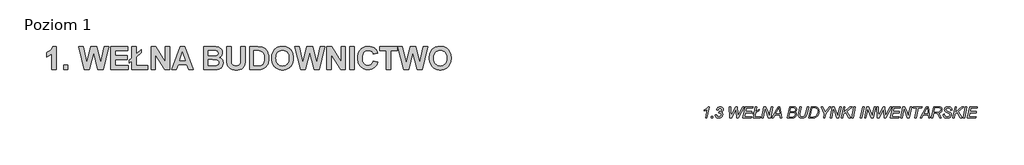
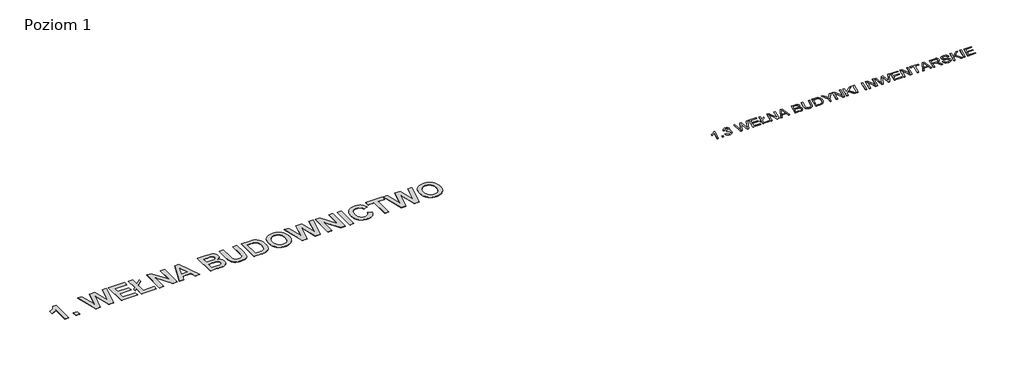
# One storey, incomplete: 2 proxies.
"""IFC4 building model written with IfcOpenShell, lengths in millimetres."""

from ifc_helpers import new_model, si_unit, origin, origin_with_axes, place, context, project, spatial, polyline, outline, extrude, element, save

model = new_model("IFC4")

# Units and contexts
model_context = context("Model", 3, world=origin())
ifc_project = project(units=[si_unit("LENGTHUNIT", "METRE", prefix="MILLI")], contexts=[model_context])

# Site, building, storey
site = spatial("IfcSite", under=ifc_project)
building = spatial("IfcBuilding", under=site)
storey = spatial("IfcBuildingStorey", under=building, Name="Poziom 1", Elevation=0.0)

# Proxies
placement = place(None, origin())
element("IfcBuildingElementProxy", 1, Name="400 mm Arial", ObjectType="400 mm Arial", at=placement, inside=storey, context=model_context, shape_type="SweptSolid", body=[
    extrude(outline(polyline([(7188.1068831, 15251.1796723), (7249.3190043, 15546.3368692), (7227.350787, 15531.4283702), (7201.3296577, 15518.0740851), (7137.1286634, 15496.0281571), (7146.1191937, 15538.8766419), (7181.8302496, 15555.5067319), (7217.0391748, 15576.5125321), (7269.9780952, 15617.0177404), (7290.7328301, 15642.937248), (7319.330368, 15642.937248), (7237.9373755, 15251.1796723), (7188.1068831, 15251.1796723)])), origin_with_axes(), (0.0, 0.0, 1.0), 5.0),
    extrude(outline(polyline([(7384.7508225, 15251.1796723), (7396.2280952, 15300.1493692), (7445.1977922, 15300.1493692), (7434.6769589, 15251.1796723), (7384.7508225, 15251.1796723)])), origin_with_axes(), (0.0, 0.0, 1.0), 5.0),
    extrude(outline(polyline([(7530.8947619, 15355.2402783), (7579.8644589, 15355.2402783), (7588.7593452, 15327.0850937), (7604.3493073, 15308.2312821), (7626.2517695, 15297.5789383), (7654.0841558, 15294.0281571), (7688.6594399, 15300.0059033), (7704.0461587, 15307.4780861), (7718.1655952, 15317.9391419), (7729.9656663, 15330.3310098), (7738.3942884, 15343.5956287), (7743.4514617, 15357.7329985), (7745.1371861, 15372.7431192), (7740.2832562, 15397.3594781), (7725.7214664, 15417.265373), (7702.9821198, 15430.4283702), (7673.5955195, 15434.8160359), (7658.1968452, 15434.8160359), (7666.422224, 15484.6465283), (7679.7167316, 15483.7857329), (7715.9538291, 15487.9462442), (7742.220046, 15500.4277783), (7758.1806284, 15518.9587916), (7763.5008225, 15541.2677404), (7758.9816464, 15561.7833654), (7745.424118, 15578.7601647), (7725.3149797, 15590.1657044), (7701.140974, 15593.967551), (7676.8713244, 15590.082016), (7655.1362392, 15578.4254109), (7638.3268168, 15559.6672433), (7628.8341558, 15534.4770207), (7579.8644589, 15542.4154677), (7587.1064984, 15565.0621592), (7597.0684125, 15584.9889762), (7609.7502011, 15602.1959187), (7625.1518642, 15616.6829866), (7642.6816049, 15628.169226), (7661.7476265, 15636.3736827), (7682.3499288, 15641.2963567), (7704.4885119, 15642.937248), (7727.4460462, 15641.1857684), (7748.1141038, 15635.9313294), (7766.4926845, 15627.1739312), (7782.5817884, 15614.9135738), (7795.6581082, 15600.1007187), (7804.9983367, 15583.6858276), (7810.6024738, 15565.6689005), (7812.4705195, 15546.0499374), (7808.5132515, 15518.1099516), (7796.6414475, 15493.9718124), (7776.7116416, 15473.6355198), (7748.580368, 15457.1010738), (7768.6177733, 15441.690444), (7782.8208983, 15423.3865851), (7791.2853869, 15402.213408), (7794.1068831, 15378.1948238), (7791.5753076, 15352.1198948), (7783.980581, 15327.8382897), (7771.3227034, 15305.3500084), (7753.6016748, 15284.655051), (7732.3597536, 15267.3315425), (7709.1391984, 15254.9576079), (7683.9400093, 15247.5332471), (7656.7621861, 15245.0584601), (7630.7231236, 15246.9354724), (7607.3142695, 15252.5665094), (7586.5356236, 15261.9515709), (7568.3871861, 15275.0906571), (7553.4189096, 15291.3620823), (7542.1807467, 15310.1441609), (7534.6726975, 15331.4368929), (7530.8947619, 15355.2402783)])), origin_with_axes(), (0.0, 0.0, 1.0), 5.0),
    extrude(outline(polyline([(8045.0765801, 15251.1796723), (8020.5917316, 15642.937248), (8069.5614286, 15642.937248), (8080.7517695, 15447.8236116), (8085.0557467, 15372.9344071), (8086.3947619, 15348.9277783), (8090.985671, 15318.5130056), (8136.4165422, 15418.0783465), (8251.1892695, 15642.937248), (8308.2887013, 15642.937248), (8325.6002543, 15413.2961495), (8335.8341558, 15318.5130056), (8351.328474, 15356.1010738), (8381.9345346, 15417.1219071), (8495.5595346, 15642.937248), (8550.0765801, 15642.937248), (8346.1637013, 15251.1796723), (8289.9250649, 15251.1796723), (8271.3701407, 15487.5158465), (8262.3796104, 15563.3614904), (8236.4601028, 15506.3577026), (8106.0017695, 15251.1796723), (8045.0765801, 15251.1796723)])), origin_with_axes(), (0.0, 0.0, 1.0), 5.0),
    extrude(outline(polyline([(8504.1674892, 15251.1796723), (8583.7432467, 15642.937248), (8859.1977922, 15642.937248), (8852.9809361, 15600.0887632), (8624.7744967, 15600.0887632), (8599.9070725, 15477.6645207), (8822.4705195, 15477.6645207), (8810.2280952, 15434.8160359), (8591.203474, 15434.8160359), (8562.6059361, 15294.0281571), (8808.1239286, 15294.0281571), (8798.9421104, 15251.1796723), (8504.1674892, 15251.1796723)])), origin_with_axes(), (0.0, 0.0, 1.0), 5.0),
    extrude(outline(polyline([(8898.3161634, 15413.7743692), (8846.955368, 15385.8463389), (8859.1977922, 15428.6948238), (8906.6371861, 15454.5186874), (8944.8947619, 15642.937248), (8994.6296104, 15642.937248), (8962.4932467, 15484.7421723), (9073.4402164, 15544.9978541), (9061.1977922, 15502.1493692), (8954.267868, 15444.093498), (8923.7574513, 15294.0281571), (9128.5311255, 15294.0281571), (9116.2887013, 15251.1796723), (8865.3190043, 15251.1796723), (8898.3161634, 15413.7743692)])), origin_with_axes(), (0.0, 0.0, 1.0), 5.0),
    extrude(outline(polyline([(9165.2583983, 15251.1796723), (9244.8341558, 15642.937248), (9312.1674892, 15642.937248), (9371.4667316, 15491.3416041), (9414.5065043, 15374.5603541), (9435.6438149, 15300.1493692), (9457.2593452, 15411.2876268), (9502.3076407, 15642.937248), (9551.9468452, 15642.937248), (9475.8142695, 15251.1796723), (9403.5074513, 15251.1796723), (9322.4970346, 15476.2298616), (9282.9960877, 15585.7421723), (9263.3890801, 15489.0461495), (9214.9932467, 15251.1796723), (9165.2583983, 15251.1796723)])), origin_with_axes(), (0.0, 0.0, 1.0), 5.0),
    extrude(outline(polyline([(9524.2101028, 15251.1796723), (9743.4260119, 15642.937248), (9805.4032846, 15642.937248), (9867.0936255, 15251.1796723), (9817.6457089, 15251.1796723), (9801.9601028, 15361.3614904), (9638.8871861, 15361.3614904), (9579.109724, 15251.1796723), (9524.2101028, 15251.1796723)]), holes=[polyline([(9664.2328301, 15404.2099753), (9795.9345346, 15404.2099753), (9782.1618073, 15502.1493692), (9768.1977922, 15600.0887632), (9725.0623755, 15520.5130056), (9664.2328301, 15404.2099753)])]), origin_with_axes(), (0.0, 0.0, 1.0), 5.0),
    extrude(outline(polyline([(10071.1977922, 15251.1796723), (10151.1561255, 15642.937248), (10268.6068831, 15642.937248), (10316.2375649, 15642.937248), (10339.6105526, 15636.7203919), (10359.0382278, 15627.0603541), (10374.5205905, 15613.6223806), (10386.0576407, 15596.0717177), (10393.2309361, 15575.4126268), (10395.6220346, 15552.6493692), (10391.6289002, 15522.3302404), (10379.6494967, 15495.8368692), (10359.4208036, 15474.1974279), (10330.6797998, 15458.4400889), (10356.5036634, 15445.2292698), (10374.8672998, 15426.6384791), (10385.8424418, 15403.5524232), (10389.5008225, 15376.8558086), (10384.9696909, 15344.8031334), (10371.376296, 15314.0655624), (10350.2987628, 15287.4048143), (10323.3152164, 15267.5826079), (10291.6570725, 15255.2804062), (10256.5557467, 15251.1796723), (10071.1977922, 15251.1796723)]), holes=[polyline([(10167.3199513, 15477.6645207), (10246.9913528, 15477.6645207), (10295.1958983, 15482.1956524), (10312.5552733, 15487.8595669), (10325.4193831, 15495.7890473), (10334.7088007, 15505.8884495), (10341.344099, 15518.0621296), (10346.6523377, 15548.6323238), (10344.7872808, 15564.0429535), (10339.1921104, 15577.1820397), (10330.4885119, 15587.5474516), (10319.298171, 15594.6370586), (10301.3649323, 15598.725837), (10272.4326407, 15600.0887632), (10192.2830195, 15600.0887632), (10167.3199513, 15477.6645207)]), polyline([(10129.827527, 15294.0281571), (10219.1589664, 15294.0281571), (10266.9809361, 15296.5148995), (10289.5050839, 15302.5524232), (10307.3426786, 15311.6744639), (10321.1751833, 15324.0483986), (10331.6840611, 15339.8416041), (10338.3193594, 15357.7509317), (10340.5311255, 15376.4732329), (10336.2510592, 15401.6395444), (10323.4108604, 15419.9434033), (10312.8960048, 15426.4501801), (10298.4717032, 15431.0978777), (10257.8947619, 15434.8160359), (10158.5207089, 15434.8160359), (10129.827527, 15294.0281571)])]), origin_with_axes(), (0.0, 0.0, 1.0), 5.0),
    extrude(outline(polyline([(10512.3076407, 15642.937248), (10561.9468452, 15642.937248), (10512.4032846, 15401.7232329), (10506.3777164, 15357.248801), (10507.9528526, 15342.3761685), (10512.6782609, 15329.0338389), (10520.5539416, 15317.2218124), (10531.5798945, 15306.9400889), (10560.0220109, 15292.665231), (10594.9440043, 15287.906945), (10624.2110498, 15291.3262158), (10651.3739286, 15301.5840283), (10674.7588717, 15318.4771391), (10692.6921104, 15341.8023048), (10707.1343452, 15376.2460785), (10720.046277, 15426.4950132), (10769.3985498, 15642.937248), (10819.4203301, 15642.937248), (10767.0074513, 15412.8179298), (10753.186902, 15360.4648285), (10735.6362392, 15320.2824185), (10712.4664948, 15289.5687584), (10681.7887013, 15265.6219071), (10644.5592979, 15250.1993219), (10601.734724, 15245.0584601), (10559.3644589, 15248.6929298), (10523.1154058, 15259.5963389), (10494.0874702, 15276.8959365), (10473.3805573, 15299.7189715), (10460.9707562, 15327.0372717), (10456.8341558, 15357.8226647), (10467.7375649, 15428.7904677), (10512.3076407, 15642.937248)])), origin_with_axes(), (0.0, 0.0, 1.0), 5.0),
    extrude(outline(polyline([(10824.1068831, 15251.1796723), (10903.6826407, 15642.937248), (11020.9421104, 15642.937248), (11058.2193358, 15641.406945), (11085.5017695, 15636.8160359), (11115.0198803, 15625.2670302), (11139.875349, 15607.2620586), (11159.6258225, 15583.3869402), (11173.8289475, 15554.2274942), (11182.4010356, 15520.4771391), (11185.2583983, 15482.8292935), (11181.7195725, 15437.6733986), (11171.1030952, 15396.701926), (11154.7838481, 15360.1539857), (11134.1367127, 15328.2686874), (11110.7876359, 15301.9307376), (11086.3625649, 15282.0248427), (11059.1040422, 15267.4989194), (11027.2546104, 15257.3008844), (10998.3701407, 15252.7099753), (10963.5557467, 15251.1796723), (10824.1068831, 15251.1796723)]), holes=[polyline([(10882.5453301, 15294.0281571), (10945.3833983, 15294.0281571), (10985.5060308, 15295.5584601), (11020.9421104, 15300.1493692), (11040.0230763, 15306.1988484), (11056.1390801, 15314.5916041), (11074.4788055, 15328.7469071), (11091.049118, 15346.9192556), (11109.5562202, 15375.385283), (11123.9506331, 15407.6053351), (11133.2041842, 15444.0337205), (11136.2887013, 15485.124748), (11132.0445015, 15527.9134554), (11119.311902, 15559.4879109), (11100.0037818, 15581.0675747), (11076.0330195, 15593.8719071), (11051.2134172, 15598.5345491), (11015.5860498, 15600.0887632), (10944.7138907, 15600.0887632), (10882.5453301, 15294.0281571)])]), origin_with_axes(), (0.0, 0.0, 1.0), 5.0),
    extrude(outline(polyline([(11344.4099134, 15251.1796723), (11374.8246861, 15401.1493692), (11256.5131331, 15642.937248), (11310.0737392, 15642.937248), (11367.4601028, 15529.8861116), (11404.1873755, 15450.6929298), (11427.3092979, 15486.702873), (11460.1390801, 15525.4864904), (11548.0358604, 15642.937248), (11607.2394589, 15642.937248), (11423.6987392, 15397.2279677), (11394.1447619, 15251.1796723), (11344.4099134, 15251.1796723)])), origin_with_axes(), (0.0, 0.0, 1.0), 5.0),
    extrude(outline(polyline([(11577.015974, 15251.1796723), (11656.5917316, 15642.937248), (11723.9250649, 15642.937248), (11783.2243073, 15491.3416041), (11826.2640801, 15374.5603541), (11847.4013907, 15300.1493692), (11869.016921, 15411.2876268), (11914.0652164, 15642.937248), (11963.704421, 15642.937248), (11887.5718452, 15251.1796723), (11815.265027, 15251.1796723), (11734.2546104, 15476.2298616), (11694.7536634, 15585.7421723), (11675.1466558, 15489.0461495), (11626.7508225, 15251.1796723), (11577.015974, 15251.1796723)])), origin_with_axes(), (0.0, 0.0, 1.0), 5.0),
    extrude(outline(polyline([(11968.7735498, 15251.1796723), (12047.9667316, 15642.937248), (12097.7015801, 15642.937248), (12059.2527164, 15452.5101647), (12276.3644589, 15642.937248), (12348.2887013, 15642.937248), (12165.4174892, 15481.0120586), (12295.015027, 15251.1796723), (12239.6371861, 15251.1796723), (12127.829421, 15449.6408465), (12043.7583983, 15375.8993692), (12018.6040422, 15251.1796723), (11968.7735498, 15251.1796723)])), origin_with_axes(), (0.0, 0.0, 1.0), 5.0),
    extrude(outline(polyline([(12336.046277, 15251.1796723), (12415.6220346, 15642.937248), (12465.3568831, 15642.937248), (12385.7811255, 15251.1796723), (12336.046277, 15251.1796723)])), origin_with_axes(), (0.0, 0.0, 1.0), 5.0),
    extrude(outline(polyline([(12642.1068831, 15251.1796723), (12721.6826407, 15642.937248), (12771.4174892, 15642.937248), (12691.8417316, 15251.1796723), (12642.1068831, 15251.1796723)])), origin_with_axes(), (0.0, 0.0, 1.0), 5.0),
    extrude(outline(polyline([(12789.015974, 15251.1796723), (12868.5917316, 15642.937248), (12935.9250649, 15642.937248), (12995.2243073, 15491.3416041), (13038.2640801, 15374.5603541), (13059.4013907, 15300.1493692), (13081.016921, 15411.2876268), (13126.0652164, 15642.937248), (13175.704421, 15642.937248), (13099.5718452, 15251.1796723), (13027.265027, 15251.1796723), (12946.2546104, 15476.2298616), (12906.7536634, 15585.7421723), (12887.1466558, 15489.0461495), (12838.7508225, 15251.1796723), (12789.015974, 15251.1796723)])), origin_with_axes(), (0.0, 0.0, 1.0), 5.0),
    extrude(outline(polyline([(13241.985671, 15251.1796723), (13217.5008225, 15642.937248), (13266.4705195, 15642.937248), (13277.6608604, 15447.8236116), (13281.9648377, 15372.9344071), (13283.3038528, 15348.9277783), (13287.8947619, 15318.5130056), (13333.3256331, 15418.0783465), (13448.0983604, 15642.937248), (13505.1977922, 15642.937248), (13522.5093452, 15413.2961495), (13532.7432467, 15318.5130056), (13548.2375649, 15356.1010738), (13578.8436255, 15417.1219071), (13692.4686255, 15642.937248), (13746.985671, 15642.937248), (13543.0727922, 15251.1796723), (13486.8341558, 15251.1796723), (13468.2792316, 15487.5158465), (13459.2887013, 15563.3614904), (13433.3691937, 15506.3577026), (13302.9108604, 15251.1796723), (13241.985671, 15251.1796723)])), origin_with_axes(), (0.0, 0.0, 1.0), 5.0),
    extrude(outline(polyline([(13701.0765801, 15251.1796723), (13780.6523377, 15642.937248), (14056.1068831, 15642.937248), (14049.890027, 15600.0887632), (13821.6835877, 15600.0887632), (13796.8161634, 15477.6645207), (14019.3796104, 15477.6645207), (14007.1371861, 15434.8160359), (13788.1125649, 15434.8160359), (13759.515027, 15294.0281571), (14005.0330195, 15294.0281571), (13995.8512013, 15251.1796723), (13701.0765801, 15251.1796723)])), origin_with_axes(), (0.0, 0.0, 1.0), 5.0),
    extrude(outline(polyline([(14062.2280952, 15251.1796723), (14141.8038528, 15642.937248), (14209.1371861, 15642.937248), (14268.4364286, 15491.3416041), (14311.4762013, 15374.5603541), (14332.6135119, 15300.1493692), (14354.2290422, 15411.2876268), (14399.2773377, 15642.937248), (14448.9165422, 15642.937248), (14372.7839664, 15251.1796723), (14300.4771483, 15251.1796723), (14219.4667316, 15476.2298616), (14179.9657846, 15585.7421723), (14160.358777, 15489.0461495), (14111.9629437, 15251.1796723), (14062.2280952, 15251.1796723)])), origin_with_axes(), (0.0, 0.0, 1.0), 5.0),
    extrude(outline(polyline([(14558.046277, 15251.1796723), (14632.1703301, 15600.0887632), (14496.8341558, 15600.0887632), (14506.111618, 15642.937248), (14818.1977922, 15642.937248), (14808.9203301, 15600.0887632), (14682.0008225, 15600.0887632), (14607.8767695, 15251.1796723), (14558.046277, 15251.1796723)])), origin_with_axes(), (0.0, 0.0, 1.0), 5.0),
    extrude(outline(polyline([(14751.7252543, 15251.1796723), (14970.9411634, 15642.937248), (15032.9184361, 15642.937248), (15094.608777, 15251.1796723), (15045.1608604, 15251.1796723), (15029.4752543, 15361.3614904), (14866.4023377, 15361.3614904), (14806.6248755, 15251.1796723), (14751.7252543, 15251.1796723)]), holes=[polyline([(14891.7479816, 15404.2099753), (15023.4496861, 15404.2099753), (15009.6769589, 15502.1493692), (14995.7129437, 15600.0887632), (14952.577527, 15520.5130056), (14891.7479816, 15404.2099753)])]), origin_with_axes(), (0.0, 0.0, 1.0), 5.0),
    extrude(outline(polyline([(15145.6826407, 15251.1796723), (15225.2583983, 15642.937248), (15390.7224134, 15642.937248), (15433.7741416, 15640.8569923), (15464.9899323, 15634.6162253), (15487.561902, 15622.6368219), (15504.6821672, 15603.3406571), (15515.4779769, 15577.3972385), (15519.0765801, 15545.4760738), (15517.1397903, 15522.0791751), (15511.329421, 15500.7625321), (15501.6454721, 15481.5261448), (15488.0879437, 15464.3700132), (15470.2085048, 15449.6707352), (15447.5588244, 15437.804909), (15420.1389025, 15428.7725345), (15387.9487392, 15422.5736116), (15406.6710403, 15408.2509317), (15420.1807467, 15394.1673616), (15439.3334456, 15358.946481), (15454.3256331, 15322.530051), (15488.3748755, 15251.1796723), (15434.9099134, 15251.1796723), (15400.6693831, 15322.9126268), (15385.5337297, 15359.3051457), (15368.4373755, 15390.437248), (15354.8439806, 15406.8282281), (15340.6528111, 15416.4045776), (15321.6555337, 15421.0313531), (15293.6438149, 15422.5736116), (15230.2318831, 15422.5736116), (15195.4174892, 15251.1796723), (15145.6826407, 15251.1796723)]), holes=[polyline([(15238.9354816, 15465.4220965), (15314.015974, 15465.4220965), (15381.827527, 15465.4220965), (15408.7871625, 15470.3955813), (15430.3668263, 15479.1948238), (15447.1403822, 15491.7600463), (15459.6816937, 15508.0314715), (15467.5005858, 15526.8374611), (15470.1068831, 15547.0063768), (15468.1222714, 15563.4690899), (15462.1684361, 15577.6602594), (15452.986618, 15588.6234459), (15441.3180573, 15595.4022101), (15423.8869494, 15598.9171249), (15397.4174892, 15600.0887632), (15266.2896483, 15600.0887632), (15238.9354816, 15465.4220965)])]), origin_with_axes(), (0.0, 0.0, 1.0), 5.0),
    extrude(outline(polyline([(15555.8038528, 15379.7251268), (15604.7735498, 15385.8463389), (15604.1996861, 15371.6910359), (15606.7820725, 15349.2386211), (15614.5292316, 15328.7469071), (15628.2302259, 15311.4473096), (15648.674118, 15298.5712442), (15674.7131805, 15290.5730198), (15705.1996861, 15287.906945), (15746.2428916, 15293.0717177), (15762.6129496, 15299.5276836), (15776.2153111, 15308.5660359), (15794.543081, 15330.6836969), (15800.6523377, 15355.718498), (15797.4482657, 15373.3887158), (15787.8360498, 15389.4808086), (15763.5424892, 15407.0792935), (15716.6769589, 15430.0338389), (15655.0822619, 15460.6398995), (15632.6537581, 15478.7166041), (15617.015974, 15498.3236116), (15607.8341558, 15520.1543408), (15604.7735498, 15544.9022101), (15608.7547288, 15573.499748), (15620.6982657, 15599.2279677), (15640.3052733, 15620.6402546), (15667.2768642, 15636.2899942), (15699.903403, 15645.8663437), (15736.4752543, 15649.0584601), (15778.8694305, 15644.9577262), (15814.0424892, 15632.6555245), (15841.2771009, 15613.5147812), (15859.8559361, 15588.8984223), (15870.5441464, 15562.1659412), (15874.1068831, 15536.6768313), (15874.1068831, 15528.4514526), (15825.1371861, 15524.3387632), (15822.3635119, 15551.405998), (15815.7999466, 15567.1752925), (15806.438796, 15580.2426457), (15793.6703301, 15590.811301), (15776.8848187, 15599.0845018), (15756.9789238, 15604.4286069), (15734.8493073, 15606.2099753), (15698.4567884, 15601.3799563), (15683.6678443, 15595.3424327), (15671.1504437, 15586.8898995), (15658.095046, 15569.7457234), (15653.7432467, 15547.7715283), (15655.5485261, 15534.094445), (15660.9643642, 15521.9476647), (15671.0906663, 15510.6616798), (15687.0273377, 15499.5669829), (15750.6305573, 15468.8652783), (15806.8691937, 15439.5982329), (15825.0654532, 15423.9604488), (15838.5273377, 15405.3577026), (15846.8483604, 15383.8856382), (15849.6220346, 15359.6398995), (15844.9115706, 15329.1892603), (15830.7801786, 15301.1536306), (15808.3397193, 15277.3741562), (15778.7020536, 15259.6919829), (15743.0627306, 15248.7168408), (15702.6172998, 15245.0584601), (15671.733274, 15246.8876505), (15643.8321435, 15252.3752215), (15618.9139084, 15261.5211732), (15596.9785687, 15274.3255056), (15579.0722299, 15291.888124), (15566.2409977, 15315.3089336), (15558.484872, 15344.5879346), (15555.8038528, 15379.7251268)])), origin_with_axes(), (0.0, 0.0, 1.0), 5.0),
    extrude(outline(polyline([(15898.5917316, 15251.1796723), (15977.7849134, 15642.937248), (16027.5197619, 15642.937248), (15989.0708983, 15452.5101647), (16206.1826407, 15642.937248), (16278.1068831, 15642.937248), (16095.235671, 15481.0120586), (16224.8332089, 15251.1796723), (16169.455368, 15251.1796723), (16057.6476028, 15449.6408465), (15973.5765801, 15375.8993692), (15948.422224, 15251.1796723), (15898.5917316, 15251.1796723)])), origin_with_axes(), (0.0, 0.0, 1.0), 5.0),
    extrude(outline(polyline([(16265.8644589, 15251.1796723), (16345.4402164, 15642.937248), (16395.1750649, 15642.937248), (16315.5993073, 15251.1796723), (16265.8644589, 15251.1796723)])), origin_with_axes(), (0.0, 0.0, 1.0), 5.0),
    extrude(outline(polyline([(16412.7735498, 15251.1796723), (16492.3493073, 15642.937248), (16767.8038528, 15642.937248), (16761.5869967, 15600.0887632), (16533.3805573, 15600.0887632), (16508.5131331, 15477.6645207), (16731.0765801, 15477.6645207), (16718.8341558, 15434.8160359), (16499.8095346, 15434.8160359), (16471.2119967, 15294.0281571), (16716.7299892, 15294.0281571), (16707.548171, 15251.1796723), (16412.7735498, 15251.1796723)])), origin_with_axes(), (0.0, 0.0, 1.0), 5.0),
])
element("IfcBuildingElementProxy", 2, Name="800", ObjectType="800", at=placement, inside=storey, context=model_context, shape_type="SweptSolid", body=[
    extrude(outline(polyline([(-15688.5553841, 16963.7896585), (-15841.5553841, 16963.7896585), (-15841.5553841, 17537.938096), (-15883.9142708, 17497.5215921), (-15929.9088997, 17462.7330179), (-15979.5392708, 17433.5723734), (-16032.8053841, 17410.0396585), (-16032.8053841, 17563.0396585), (-16002.7856087, 17575.1235208), (-15971.4958138, 17591.6524515), (-15905.1061654, 17638.0455179), (-15873.3432259, 17666.8388529), (-15846.984095, 17697.9356546), (-15826.0287728, 17731.3359232), (-15810.4772591, 17767.0396585), (-15688.5553841, 17767.0396585), (-15688.5553841, 16963.7896585)])), origin_with_axes(), (0.0, 0.0, 1.0), 5.0),
    extrude(outline(polyline([(-15433.5553841, 16963.7896585), (-15433.5553841, 17116.7896585), (-15280.5553841, 17116.7896585), (-15280.5553841, 16963.7896585), (-15433.5553841, 16963.7896585)])), origin_with_axes(), (0.0, 0.0, 1.0), 5.0),
    extrude(outline(polyline([(-14695.8483529, 16963.7896585), (-14898.0553841, 17767.0396585), (-14741.0710091, 17767.0396585), (-14611.1803841, 17215.203721), (-14471.5280404, 17767.0396585), (-14265.7350716, 17767.0396585), (-14126.6803841, 17206.0396585), (-13996.7897591, 17767.0396585), (-13839.8053841, 17767.0396585), (-14039.0241341, 16963.7896585), (-14220.1139779, 16963.7896585), (-14368.9303841, 17564.234971), (-14520.7350716, 16963.7896585), (-14695.8483529, 16963.7896585)])), origin_with_axes(), (0.0, 0.0, 1.0), 5.0),
    extrude(outline(polyline([(-13763.3053841, 16963.7896585), (-13763.3053841, 17767.0396585), (-13164.0553841, 17767.0396585), (-13164.0553841, 17626.7896585), (-13610.3053841, 17626.7896585), (-13610.3053841, 17448.2896585), (-13189.5553841, 17448.2896585), (-13189.5553841, 17308.0396585), (-13610.3053841, 17308.0396585), (-13610.3053841, 17104.0396585), (-13151.3053841, 17104.0396585), (-13151.3053841, 16963.7896585), (-13763.3053841, 16963.7896585)])), origin_with_axes(), (0.0, 0.0, 1.0), 5.0),
    extrude(outline(polyline([(-13023.8053841, 17367.406846), (-13023.8053841, 17767.0396585), (-12870.8053841, 17767.0396585), (-12870.8053841, 17501.8795023), (-12692.3053841, 17658.6646585), (-12692.3053841, 17561.047471), (-12870.8053841, 17404.2623148), (-12870.8053841, 17104.0396585), (-12462.8053841, 17104.0396585), (-12462.8053841, 16963.7896585), (-13023.8053841, 16963.7896585), (-13023.8053841, 17269.7896585), (-13113.0553841, 17191.297471), (-13113.0553841, 17288.9146585), (-13023.8053841, 17367.406846)])), origin_with_axes(), (0.0, 0.0, 1.0), 5.0),
    extrude(outline(polyline([(-12348.0553841, 16963.7896585), (-12348.0553841, 17767.0396585), (-12187.6842904, 17767.0396585), (-11850.8053841, 17226.359971), (-11850.8053841, 17767.0396585), (-11697.8053841, 17767.0396585), (-11697.8053841, 16963.7896585), (-11863.1569466, 16963.7896585), (-12195.0553841, 17496.500596), (-12195.0553841, 16963.7896585), (-12348.0553841, 16963.7896585)])), origin_with_axes(), (0.0, 0.0, 1.0), 5.0),
    extrude(outline(polyline([(-10869.0553841, 16963.7896585), (-11029.8249154, 16963.7896585), (-11092.7780404, 17142.2896585), (-11396.1881966, 17142.2896585), (-11458.3444466, 16963.7896585), (-11621.3053841, 16963.7896585), (-11328.0553841, 17767.0396585), (-11165.0944466, 17767.0396585), (-10869.0553841, 16963.7896585)]), holes=[polyline([(-11141.7858529, 17282.5396585), (-11245.1803841, 17575.7896585), (-11347.1803841, 17282.5396585), (-11141.7858529, 17282.5396585)])]), origin_with_axes(), (0.0, 0.0, 1.0), 5.0),
    extrude(outline(polyline([(-10486.5553841, 17767.0396585), (-10156.8483529, 17767.0396585), (-10071.4582161, 17765.047471), (-10010.9206185, 17759.0709085), (-9965.3493294, 17746.7442484), (-9924.8581185, 17725.7017679), (-9890.0695443, 17696.1177835), (-9861.6061654, 17658.1666117), (-9850.5370736, 17636.4579935), (-9842.6305794, 17613.4669046), (-9837.8866829, 17589.1933451), (-9836.3053841, 17563.6373148), (-9838.1917366, 17535.9210062), (-9843.8507943, 17509.3502054), (-9853.282557, 17483.9249124), (-9866.4870247, 17459.6451273), (-9882.9287972, 17437.4197855), (-9902.072474, 17418.1578226), (-9923.918055, 17401.8592386), (-9948.4655404, 17388.5240335), (-9917.213099, 17375.9981546), (-9889.7956185, 17359.7369242), (-9866.213099, 17339.7403421), (-9846.4655404, 17316.0084085), (-9830.864222, 17289.2757425), (-9819.7204232, 17260.2769632), (-9813.0341439, 17229.0120707), (-9810.8053841, 17195.4810648), (-9812.4053597, 17168.3810892), (-9817.2052865, 17141.6670999), (-9836.4049935, 17089.3970804), (-9850.3752083, 17064.9429789), (-9866.6862435, 17043.078721), (-9885.338099, 17023.804307), (-9906.3307747, 17007.1197367), (-9929.782557, 16993.2055521), (-9955.8117318, 16982.2422953), (-9984.4182991, 16974.2299662), (-10015.6022591, 16969.1685648), (-10085.0299935, 16965.632432), (-10212.0319466, 16963.7896585), (-10486.5553841, 16963.7896585), (-10486.5553841, 17767.0396585)]), holes=[polyline([(-10333.5553841, 17626.7896585), (-10333.5553841, 17448.2896585), (-10216.8131966, 17448.2896585), (-10087.3210091, 17450.8795023), (-10046.5558724, 17460.1929789), (-10029.8152718, 17468.2488871), (-10015.5026497, 17478.5709085), (-10004.041346, 17490.9349222), (-9995.8547005, 17505.116807), (-9990.9427132, 17521.1165628), (-9989.3053841, 17538.9341898), (-9994.9582161, 17571.2823343), (-10002.0242562, 17584.9723978), (-10011.9167122, 17597.0064554), (-10024.5857796, 17607.1105814), (-10039.9816536, 17615.0108499), (-10078.9538216, 17624.1998148), (-10231.1569466, 17626.7896585), (-10333.5553841, 17626.7896585)]), polyline([(-10333.5553841, 17308.0396585), (-10333.5553841, 17104.0396585), (-10171.7897591, 17104.0396585), (-10094.4928841, 17105.234971), (-10051.8600716, 17108.8209085), (-10016.4489388, 17119.504014), (-9988.3092904, 17139.2017679), (-9977.5888314, 17152.3315287), (-9969.9313607, 17167.5157328), (-9965.3368782, 17184.7543802), (-9963.8053841, 17204.047471), (-9968.5368294, 17235.7232523), (-9982.7311654, 17262.219346), (-10005.8405404, 17282.8882914), (-10037.3171029, 17297.0826273), (-10093.8952279, 17305.3004007), (-10192.3092904, 17308.0396585), (-10333.5553841, 17308.0396585)])]), origin_with_axes(), (0.0, 0.0, 1.0), 5.0),
    extrude(outline(polyline([(-9683.3053841, 17767.0396585), (-9530.3053841, 17767.0396585), (-9530.3053841, 17333.7388773), (-9528.6618294, 17248.672471), (-9523.7311654, 17199.8638773), (-9516.098597, 17176.5615091), (-9504.5563607, 17155.6622171), (-9489.1044564, 17137.1660013), (-9469.7428841, 17121.0728617), (-9446.4716439, 17108.0427103), (-9419.2907357, 17098.7354593), (-9388.2001595, 17093.1511087), (-9353.1999154, 17091.2896585), (-9317.8697152, 17093.0452738), (-9287.1838021, 17098.3121195), (-9261.1421761, 17107.0901957), (-9239.7448372, 17119.3795023), (-9222.5684456, 17134.2275248), (-9209.1896615, 17150.6817484), (-9199.6084847, 17168.7421732), (-9193.8249154, 17188.4087992), (-9187.9977669, 17242.8702249), (-9186.0553841, 17324.375596), (-9186.0553841, 17767.0396585), (-9033.0553841, 17767.0396585), (-9033.0553841, 17345.6920023), (-9036.3922982, 17222.3257914), (-9046.4030404, 17141.4927835), (-9054.4838509, 17112.8613138), (-9065.3786263, 17086.5333109), (-9079.0873665, 17062.5087748), (-9095.6100716, 17040.7877054), (-9115.0525765, 17021.2704935), (-9137.5207161, 17003.8575296), (-9163.0144906, 16988.5488138), (-9191.5338997, 16975.344346), (-9223.8633675, 16964.7110453), (-9260.7873177, 16957.1158304), (-9302.3057503, 16952.5587015), (-9348.4186654, 16951.0396585), (-9403.2660775, 16952.6956644), (-9451.0661263, 16957.663682), (-9491.8188118, 16965.9437113), (-9525.5241341, 16977.5357523), (-9554.1244759, 16991.7798929), (-9579.56222, 17008.016221), (-9601.8373665, 17026.2447367), (-9620.9499154, 17046.4654398), (-9650.0358529, 17089.944932), (-9667.1686654, 17135.516221), (-9679.2712044, 17220.8814554), (-9683.3053841, 17339.1177835), (-9683.3053841, 17767.0396585)])), origin_with_axes(), (0.0, 0.0, 1.0), 5.0),
    extrude(outline(polyline([(-8880.0553841, 17767.0396585), (-8582.6217904, 17767.0396585), (-8493.9694466, 17763.2046976), (-8429.2233529, 17751.6998148), (-8395.0324349, 17739.2299662), (-8363.381556, 17722.738389), (-8334.2707161, 17702.2250833), (-8307.6999154, 17677.6900492), (-8283.9119515, 17649.6500101), (-8263.1496224, 17618.6216898), (-8245.4129281, 17584.6050882), (-8230.7018685, 17547.6002054), (-8219.1534066, 17506.8537455), (-8210.9045052, 17461.6124124), (-8205.9551644, 17411.8762064), (-8204.3053841, 17357.6451273), (-8205.8493294, 17309.8326273), (-8210.4811654, 17265.406846), (-8218.2008919, 17224.3677835), (-8229.0085091, 17186.7154398), (-8245.7677865, 17144.9791117), (-8265.7643685, 17107.4263773), (-8288.9982552, 17074.0572367), (-8315.4694466, 17044.8716898), (-8338.4543099, 17025.472764), (-8365.1745247, 17008.3150492), (-8395.6300911, 16993.3985453), (-8429.8210091, 16980.7232523), (-8492.7243294, 16968.023057), (-8573.8561654, 16963.7896585), (-8880.0553841, 16963.7896585), (-8880.0553841, 17767.0396585)]), holes=[polyline([(-8727.0553841, 17626.7896585), (-8727.0553841, 17104.0396585), (-8596.7663216, 17104.0396585), (-8533.8131966, 17105.9322367), (-8491.1803841, 17111.609971), (-8452.3576302, 17124.5840921), (-8420.756556, 17144.3814554), (-8407.4026741, 17157.8473978), (-8395.331263, 17175.0362406), (-8375.0358529, 17220.5826273), (-8361.7380013, 17283.2369242), (-8357.3053841, 17365.2154398), (-8361.7380013, 17446.0484476), (-8367.2787728, 17478.5086527), (-8375.0358529, 17505.6646585), (-8396.2775521, 17549.2935648), (-8424.5417122, 17582.1646585), (-8460.6252083, 17605.1744242), (-8505.3249154, 17619.219346), (-8559.4626107, 17624.8970804), (-8648.5631966, 17626.7896585), (-8727.0553841, 17626.7896585)])]), origin_with_axes(), (0.0, 0.0, 1.0), 5.0),
    extrude(outline(polyline([(-8102.3053841, 17360.4341898), (-8100.051722, 17419.2286234), (-8093.2907357, 17473.0923929), (-8082.0224251, 17522.0254984), (-8066.2467904, 17566.0279398), (-8034.4464974, 17624.0753031), (-7992.834681, 17675.8970804), (-7944.1007943, 17718.3057718), (-7918.0716195, 17734.7848978), (-7890.9342904, 17748.1138773), (-7852.659388, 17761.9720316), (-7811.5456185, 17771.8707132), (-7767.5929818, 17777.8099222), (-7720.8014779, 17779.7896585), (-7678.3118538, 17778.0729532), (-7638.0011849, 17772.9228373), (-7599.869471, 17764.3393106), (-7563.9167122, 17752.3223734), (-7530.1429085, 17736.8720255), (-7498.5480599, 17717.9882669), (-7469.1321663, 17695.6710978), (-7441.8952279, 17669.9205179), (-7417.3819832, 17641.1131754), (-7396.1371712, 17609.6257181), (-7378.1607918, 17575.4581461), (-7363.452845, 17538.6104593), (-7352.0133309, 17499.0826578), (-7343.8422493, 17456.8747416), (-7338.9396004, 17411.9867105), (-7337.3053841, 17364.4185648), (-7338.9271492, 17317.1819315), (-7343.7924447, 17272.5911722), (-7351.9012703, 17230.646287), (-7363.2536263, 17191.3472757), (-7377.8495125, 17154.6941385), (-7395.688929, 17120.6868753), (-7416.7718758, 17089.3254862), (-7441.0983529, 17060.609971), (-7468.1422982, 17034.9294291), (-7497.3776497, 17012.6729593), (-7528.8044075, 16993.8405619), (-7562.4225716, 16978.4322367), (-7598.2321419, 16966.4479837), (-7636.2331185, 16957.8878031), (-7676.4255013, 16952.7516947), (-7718.8092904, 16951.0396585), (-7761.6599984, 16952.7439127), (-7802.2570443, 16957.8566751), (-7840.6004281, 16966.3779459), (-7876.6901497, 16978.3077249), (-7910.5262093, 16993.6460123), (-7942.1086068, 17012.392808), (-7971.4373421, 17034.5481119), (-7998.5124154, 17060.1119242), (-8022.8388924, 17088.6640177), (-8043.9218392, 17119.7841654), (-8061.7612557, 17153.4723673), (-8076.3571419, 17189.7286234), (-8087.7094979, 17228.5529337), (-8095.8183236, 17269.9452982), (-8100.683619, 17313.9057169), (-8102.3053841, 17360.4341898)]), holes=[polyline([(-7949.3053841, 17366.0123148), (-7945.2400765, 17302.4739847), (-7933.0441536, 17247.1285257), (-7912.7176156, 17199.9759378), (-7884.2604622, 17161.016221), (-7849.5403695, 17130.5108499), (-7810.425013, 17108.7212992), (-7766.9143929, 17095.6475687), (-7719.0085091, 17091.2896585), (-7671.15243, 17095.6164408), (-7627.791224, 17108.5967874), (-7588.9248909, 17130.2306986), (-7554.553431, 17160.5181742), (-7526.4449105, 17199.4592142), (-7506.3673958, 17247.0538187), (-7494.320887, 17303.3019876), (-7490.3053841, 17368.203721), (-7494.2150521, 17432.2027445), (-7505.944056, 17487.5357523), (-7525.4923958, 17534.2027445), (-7552.8600716, 17572.203721), (-7586.7023568, 17601.6631937), (-7625.6745247, 17622.7056742), (-7669.7765755, 17635.3311624), (-7719.0085091, 17639.5396585), (-7768.2902474, 17635.2813578), (-7812.5417122, 17622.5064554), (-7851.7629036, 17601.2149515), (-7885.9538216, 17571.406846), (-7913.6701302, 17533.0198832), (-7933.4674935, 17485.991807), (-7945.3459115, 17430.3226175), (-7949.3053841, 17366.0123148)])]), origin_with_axes(), (0.0, 0.0, 1.0), 5.0),
    extrude(outline(polyline([(-7084.0983529, 16963.7896585), (-7286.3053841, 17767.0396585), (-7129.3210091, 17767.0396585), (-6999.4303841, 17215.203721), (-6859.7780404, 17767.0396585), (-6653.9850716, 17767.0396585), (-6514.9303841, 17206.0396585), (-6385.0397591, 17767.0396585), (-6228.0553841, 17767.0396585), (-6427.2741341, 16963.7896585), (-6608.3639779, 16963.7896585), (-6757.1803841, 17564.234971), (-6908.9850716, 16963.7896585), (-7084.0983529, 16963.7896585)])), origin_with_axes(), (0.0, 0.0, 1.0), 5.0),
    extrude(outline(polyline([(-6151.5553841, 16963.7896585), (-6151.5553841, 17767.0396585), (-5991.1842904, 17767.0396585), (-5654.3053841, 17226.359971), (-5654.3053841, 17767.0396585), (-5501.3053841, 17767.0396585), (-5501.3053841, 16963.7896585), (-5666.6569466, 16963.7896585), (-5998.5553841, 17496.500596), (-5998.5553841, 16963.7896585), (-6151.5553841, 16963.7896585)])), origin_with_axes(), (0.0, 0.0, 1.0), 5.0),
    extrude(outline(polyline([(-5348.3053841, 16963.7896585), (-5348.3053841, 17767.0396585), (-5195.3053841, 17767.0396585), (-5195.3053841, 16963.7896585), (-5348.3053841, 16963.7896585)])), origin_with_axes(), (0.0, 0.0, 1.0), 5.0),
    extrude(outline(polyline([(-4519.5553841, 17269.7896585), (-4366.5553841, 17218.7896585), (-4387.6850228, 17158.29564), (-4414.8161263, 17106.1065531), (-4447.9486947, 17062.2223978), (-4487.0827279, 17026.6431742), (-4532.0563607, 16999.1447611), (-4582.7077279, 16979.5030374), (-4639.0368294, 16967.7180033), (-4701.0436654, 16963.7896585), (-4740.2430672, 16965.467454), (-4777.6557259, 16970.5008402), (-4813.2816414, 16978.8898172), (-4847.1208138, 16990.6343851), (-4879.173243, 17005.7345438), (-4909.438929, 17024.1902933), (-4937.9178719, 17046.0016336), (-4964.6100716, 17071.1685648), (-4988.796473, 17099.2459574), (-5009.7580208, 17129.788682), (-5027.4947152, 17162.7967386), (-5042.006556, 17198.2701273), (-5053.2935433, 17236.208848), (-5061.3556771, 17276.6129007), (-5066.1929574, 17319.4822855), (-5067.8053841, 17364.8170023), (-5066.1789498, 17412.6979837), (-5061.2996468, 17457.8272562), (-5053.1674752, 17500.2048197), (-5041.7824349, 17539.8306742), (-5027.144526, 17576.7048197), (-5009.2537484, 17610.8272562), (-4988.1101021, 17642.1979837), (-4963.7135872, 17670.8170023), (-4936.6649727, 17696.3574686), (-4907.5650277, 17718.4925394), (-4876.413752, 17737.2222147), (-4843.2111458, 17752.5464945), (-4807.9572091, 17764.4653788), (-4770.6519417, 17772.9788675), (-4731.2953438, 17778.0869608), (-4689.8874154, 17779.7896585), (-4619.2643685, 17774.17418), (-4555.6139779, 17757.3277445), (-4526.4035286, 17744.6929178), (-4498.9362435, 17729.2503519), (-4473.2121224, 17711.0000467), (-4449.2311654, 17689.9420023), (-4423.3700814, 17660.5447855), (-4400.9704232, 17625.3453226), (-4382.0321907, 17584.3436136), (-4366.5553841, 17537.5396585), (-4519.5553841, 17512.0396585), (-4529.1988167, 17540.0610208), (-4542.9884896, 17564.957139), (-4560.9244027, 17586.728013), (-4583.006556, 17605.3736429), (-4608.4629769, 17620.3212748), (-4636.5216927, 17630.9981546), (-4667.1827034, 17637.4042826), (-4700.4460091, 17639.5396585), (-4745.9114632, 17635.6611185), (-4786.8820443, 17624.0254984), (-4823.3577523, 17604.6327982), (-4855.3385872, 17577.4830179), (-4881.3553109, 17541.6547708), (-4899.9386849, 17496.2266703), (-4911.0887093, 17441.1987162), (-4914.8053841, 17376.5709085), (-4911.2007699, 17308.1641703), (-4900.3869271, 17250.3658304), (-4882.3638558, 17203.175889), (-4857.131556, 17166.594346), (-4826.1219124, 17139.2266703), (-4790.7668099, 17119.6783304), (-4751.0662484, 17107.9493265), (-4707.0202279, 17104.0396585), (-4674.2300667, 17106.5361185), (-4643.7931771, 17114.0254984), (-4615.7095589, 17126.5077982), (-4589.9792122, 17143.9830179), (-4567.1624398, 17166.8246927), (-4547.8195443, 17195.4063578), (-4531.9505257, 17229.728013), (-4519.5553841, 17269.7896585)])), origin_with_axes(), (0.0, 0.0, 1.0), 5.0),
    extrude(outline(polyline([(-4060.5553841, 16963.7896585), (-4060.5553841, 17626.7896585), (-4290.0553841, 17626.7896585), (-4290.0553841, 17767.0396585), (-3678.0553841, 17767.0396585), (-3678.0553841, 17626.7896585), (-3907.5553841, 17626.7896585), (-3907.5553841, 16963.7896585), (-4060.5553841, 16963.7896585)])), origin_with_axes(), (0.0, 0.0, 1.0), 5.0),
    extrude(outline(polyline([(-3450.3483529, 16963.7896585), (-3652.5553841, 17767.0396585), (-3495.5710091, 17767.0396585), (-3365.6803841, 17215.203721), (-3226.0280404, 17767.0396585), (-3020.2350716, 17767.0396585), (-2881.1803841, 17206.0396585), (-2751.2897591, 17767.0396585), (-2594.3053841, 17767.0396585), (-2793.5241341, 16963.7896585), (-2974.6139779, 16963.7896585), (-3123.4303841, 17564.234971), (-3275.2350716, 16963.7896585), (-3450.3483529, 16963.7896585)])), origin_with_axes(), (0.0, 0.0, 1.0), 5.0),
    extrude(outline(polyline([(-2543.3053841, 17360.4341898), (-2541.051722, 17419.2286234), (-2534.2907357, 17473.0923929), (-2523.0224251, 17522.0254984), (-2507.2467904, 17566.0279398), (-2475.4464974, 17624.0753031), (-2433.834681, 17675.8970804), (-2385.1007943, 17718.3057718), (-2359.0716195, 17734.7848978), (-2331.9342904, 17748.1138773), (-2293.659388, 17761.9720316), (-2252.5456185, 17771.8707132), (-2208.5929818, 17777.8099222), (-2161.8014779, 17779.7896585), (-2119.3118538, 17778.0729532), (-2079.0011849, 17772.9228373), (-2040.869471, 17764.3393106), (-2004.9167122, 17752.3223734), (-1971.1429085, 17736.8720255), (-1939.5480599, 17717.9882669), (-1910.1321663, 17695.6710978), (-1882.8952279, 17669.9205179), (-1858.3819832, 17641.1131754), (-1837.1371712, 17609.6257181), (-1819.1607918, 17575.4581461), (-1804.452845, 17538.6104593), (-1793.0133309, 17499.0826578), (-1784.8422493, 17456.8747416), (-1779.9396004, 17411.9867105), (-1778.3053841, 17364.4185648), (-1779.9271492, 17317.1819315), (-1784.7924447, 17272.5911722), (-1792.9012703, 17230.646287), (-1804.2536263, 17191.3472757), (-1818.8495125, 17154.6941385), (-1836.688929, 17120.6868753), (-1857.7718758, 17089.3254862), (-1882.0983529, 17060.609971), (-1909.1422982, 17034.9294291), (-1938.3776497, 17012.6729593), (-1969.8044075, 16993.8405619), (-2003.4225716, 16978.4322367), (-2039.2321419, 16966.4479837), (-2077.2331185, 16957.8878031), (-2117.4255013, 16952.7516947), (-2159.8092904, 16951.0396585), (-2202.6599984, 16952.7439127), (-2243.2570443, 16957.8566751), (-2281.6004281, 16966.3779459), (-2317.6901497, 16978.3077249), (-2351.5262093, 16993.6460123), (-2383.1086068, 17012.392808), (-2412.4373421, 17034.5481119), (-2439.5124154, 17060.1119242), (-2463.8388924, 17088.6640177), (-2484.9218392, 17119.7841654), (-2502.7612557, 17153.4723673), (-2517.3571419, 17189.7286234), (-2528.7094979, 17228.5529337), (-2536.8183236, 17269.9452982), (-2541.683619, 17313.9057169), (-2543.3053841, 17360.4341898)]), holes=[polyline([(-2390.3053841, 17366.0123148), (-2386.2400765, 17302.4739847), (-2374.0441536, 17247.1285257), (-2353.7176156, 17199.9759378), (-2325.2604622, 17161.016221), (-2290.5403695, 17130.5108499), (-2251.425013, 17108.7212992), (-2207.9143929, 17095.6475687), (-2160.0085091, 17091.2896585), (-2112.15243, 17095.6164408), (-2068.791224, 17108.5967874), (-2029.9248909, 17130.2306986), (-1995.553431, 17160.5181742), (-1967.4449105, 17199.4592142), (-1947.3673958, 17247.0538187), (-1935.320887, 17303.3019876), (-1931.3053841, 17368.203721), (-1935.2150521, 17432.2027445), (-1946.944056, 17487.5357523), (-1966.4923958, 17534.2027445), (-1993.8600716, 17572.203721), (-2027.7023568, 17601.6631937), (-2066.6745247, 17622.7056742), (-2110.7765755, 17635.3311624), (-2160.0085091, 17639.5396585), (-2209.2902474, 17635.2813578), (-2253.5417122, 17622.5064554), (-2292.7629036, 17601.2149515), (-2326.9538216, 17571.406846), (-2354.6701302, 17533.0198832), (-2374.4674935, 17485.991807), (-2386.3459115, 17430.3226175), (-2390.3053841, 17366.0123148)])]), origin_with_axes(), (0.0, 0.0, 1.0), 5.0),
])

save(model, "model.ifc")
